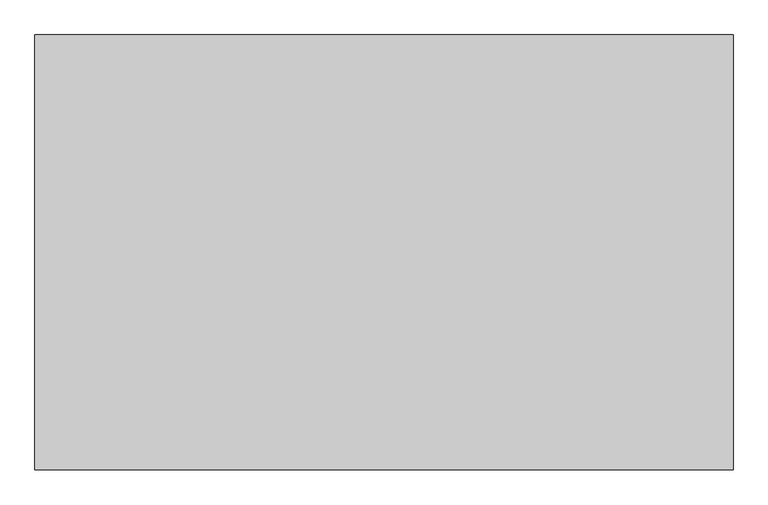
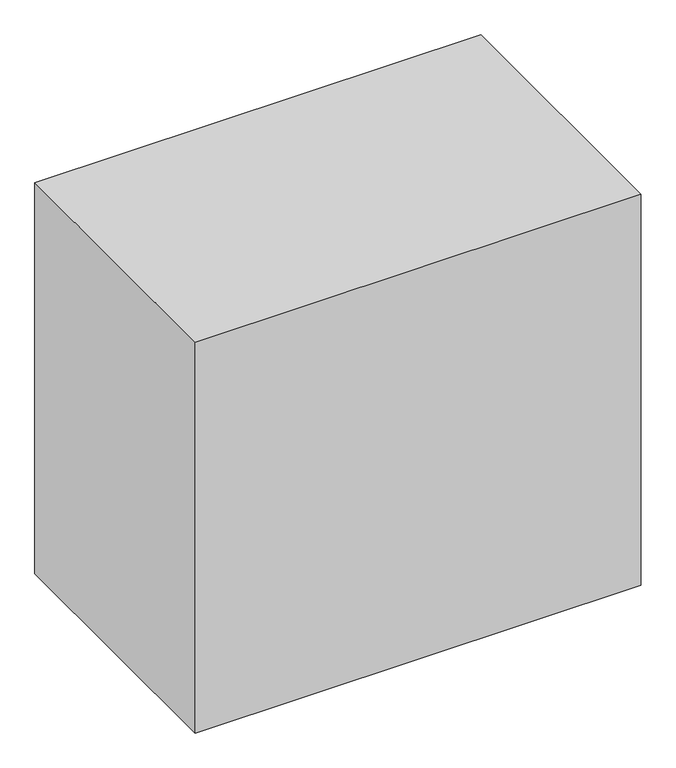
"""IFC4 building model written with IfcOpenShell, lengths in millimetres: proxy geometry."""

import ifcopenshell
import ifcopenshell.guid

model = None  # the IFC model being written
_history = None  # IfcOwnerHistory: only IFC2X3 demands one
_inside = {}  # id of a spatial element -> (the spatial element, [elements in it])
_under = {}  # id of a project, library or spatial element -> (it, [spatial elements below it])
_declared = {}  # id of a project -> (the project, [libraries it declares])
_typed = {}  # id of a type object -> (the type object, [elements of that type])
_made_of = {}  # id of a material, layer set ... -> (it, [elements and type objects made of it])


def new_model(schema):
    """Start an empty IFC model of exactly this schema.

    Asked for "IFC4X3", IfcOpenShell would pick the latest addendum, in which some entities
    have other attributes; the version numbers below select the first issue.
    IFC2X3 requires an IfcOwnerHistory on every rooted entity: one is made here for all.
    """
    global model, _history
    if schema == "IFC4X3":
        model = ifcopenshell.file(schema_version=(4, 3, 0, 0))
    else:
        model = ifcopenshell.file(schema=schema)
    _inside.clear()
    _under.clear()
    _declared.clear()
    _typed.clear()
    _made_of.clear()
    _history = None
    if model.schema == "IFC2X3":
        org = make("IfcOrganization", Name="unknown")
        user = make(
            "IfcPersonAndOrganization",
            ThePerson=make("IfcPerson", FamilyName="unknown"),
            TheOrganization=org,
        )
        app = make(
            "IfcApplication",
            ApplicationDeveloper=org,
            Version="unknown",
            ApplicationFullName="unknown",
            ApplicationIdentifier="unknown",
        )
        _history = make(
            "IfcOwnerHistory",
            OwningUser=user,
            OwningApplication=app,
            ChangeAction="ADDED",
            CreationDate=0,
        )
    return model


def make(cls, **values):
    """One entity of the class cls with the attributes given. An attribute that is None is left unset."""
    return model.create_entity(
        cls, **{name: value for name, value in values.items() if value is not None}
    )


def rooted(cls, **values):
    """An entity with a GlobalId (a new one), such as an element, a storey or a relation."""
    return make(cls, GlobalId=ifcopenshell.guid.new(), OwnerHistory=_history, **values)


def si_unit(unit_type, name, prefix=None):
    """IfcSIUnit, for example si_unit("LENGTHUNIT", "METRE", prefix="MILLI")."""
    return make("IfcSIUnit", UnitType=unit_type, Prefix=prefix, Name=name)


def assignment(units):
    """IfcUnitAssignment: the units of a project."""
    return None if units is None else make("IfcUnitAssignment", Units=units)


def point(xyz):
    """IfcCartesianPoint."""
    return None if xyz is None else make("IfcCartesianPoint", Coordinates=xyz)


def direction(xyz):
    """IfcDirection."""
    return None if xyz is None else make("IfcDirection", DirectionRatios=xyz)


def frame(location, z_axis=None, x_axis=None):
    """IfcAxis2Placement3D, a coordinate frame: its origin and axes. An axis left out is left unset."""
    return make(
        "IfcAxis2Placement3D",
        Location=point(location),
        Axis=direction(z_axis),
        RefDirection=direction(x_axis),
    )


def origin():
    """The frame at (0, 0, 0) with its axes left unset."""
    return frame((0.0, 0.0, 0.0))


def origin_with_axes():
    """The frame at (0, 0, 0) with the z axis (0, 0, 1) and the x axis (1, 0, 0) written out."""
    return frame((0.0, 0.0, 0.0), z_axis=(0.0, 0.0, 1.0), x_axis=(1.0, 0.0, 0.0))


def place(relative_to, where):
    """IfcLocalPlacement: puts the frame where relative to a parent placement (None: the world)."""
    return make(
        "IfcLocalPlacement", PlacementRelTo=relative_to, RelativePlacement=where
    )


def context(
    kind, dimensions, precision=None, world=None, true_north=None, identifier=None
):
    """IfcGeometricRepresentationContext, for example the 3D "Model" context."""
    return make(
        "IfcGeometricRepresentationContext",
        ContextIdentifier=identifier,
        ContextType=kind,
        CoordinateSpaceDimension=dimensions,
        Precision=precision,
        WorldCoordinateSystem=world,
        TrueNorth=true_north,
    )


def project(units=None, contexts=None):
    """IfcProject with its units and contexts."""
    return rooted(
        "IfcProject",
        Name="project",
        RepresentationContexts=contexts,
        UnitsInContext=assignment(units),
    )


def spatial(cls, under=None, at=None, **own):
    """A site, building, storey or space (cls), placed at a placement, below another one or the project."""
    s = rooted(cls, ObjectPlacement=at, **own)
    if under is not None:
        _under.setdefault(under.id(), (under, []))[1].append(s)
    return s


def polyline(points):
    """IfcPolyline through the points."""
    return make("IfcPolyline", Points=[point(p) for p in points])


def outline(outer, holes=None, kind="AREA"):
    """IfcArbitraryClosedProfileDef: a profile drawn as a closed curve; with holes, ...WithVoids."""
    if holes is None:
        return make("IfcArbitraryClosedProfileDef", ProfileType=kind, OuterCurve=outer)
    return make(
        "IfcArbitraryProfileDefWithVoids",
        ProfileType=kind,
        OuterCurve=outer,
        InnerCurves=holes,
    )


def extrude(swept, where, along, depth):
    """IfcExtrudedAreaSolid: the profile swept, set in the frame where, extruded along a direction by depth."""
    return make(
        "IfcExtrudedAreaSolid",
        SweptArea=swept,
        Position=where,
        ExtrudedDirection=direction(along),
        Depth=depth,
    )


def shape(context_of_items, identifier, shape_type, items):
    """IfcShapeRepresentation: the items that make up one representation, for example the "Body"."""
    return make(
        "IfcShapeRepresentation",
        ContextOfItems=context_of_items,
        RepresentationIdentifier=identifier,
        RepresentationType=shape_type,
        Items=items,
    )


def source(mapping_origin, context_of_items, identifier, shape_type, items):
    """IfcRepresentationMap: a shape defined once, which mapped items show again and again."""
    return make(
        "IfcRepresentationMap",
        MappingOrigin=mapping_origin,
        MappedRepresentation=shape(context_of_items, identifier, shape_type, items),
    )


def transform(
    local_origin,
    x_axis=None,
    y_axis=None,
    z_axis=None,
    scale=None,
    scale2=None,
    scale3=None,
    uniform=True,
):
    """IfcCartesianTransformationOperator3D, or its non-uniform kind. x_axis, y_axis, z_axis: its Axis1, 2, 3."""
    if uniform:
        return make(
            "IfcCartesianTransformationOperator3D",
            Axis1=direction(x_axis),
            Axis2=direction(y_axis),
            LocalOrigin=point(local_origin),
            Scale=scale,
            Axis3=direction(z_axis),
        )
    return make(
        "IfcCartesianTransformationOperator3DnonUniform",
        Axis1=direction(x_axis),
        Axis2=direction(y_axis),
        LocalOrigin=point(local_origin),
        Scale=scale,
        Axis3=direction(z_axis),
        Scale2=scale2,
        Scale3=scale3,
    )


def mapped(mapping_source, mapping_target):
    """IfcMappedItem: shows the shape of a source again, moved by a transform."""
    return make(
        "IfcMappedItem", MappingSource=mapping_source, MappingTarget=mapping_target
    )


def made_of(thing, what):
    """Note that an element or type object is made of a material, layer set ...; save() writes the relation."""
    if what is not None:
        _made_of.setdefault(what.id(), (what, []))[1].append(thing)
    return thing


def element(
    cls,
    number,
    at=None,
    inside=None,
    cuts=None,
    type_object=None,
    material=None,
    context=None,
    identifier="Body",
    shape_type=None,
    held_by="IfcProductDefinitionShape",
    body=None,
    shapes=None,
    **own,
):
    """One element of the class cls, such as IfcWall. Its Tag is "e" and its number.

    at: its placement. inside: the storey or other place that contains it. cuts: it is an
    opening in that element (IfcRelVoidsElement). A single representation is given by context,
    identifier, shape_type and body (its items); several are given by shapes. held_by: the class
    of the entity that holds the representations. save() writes the other relations.
    """
    e = rooted(cls, Tag="e%d" % number, ObjectPlacement=at, **own)
    if body is not None:
        shapes = [shape(context, identifier, shape_type, body)]
    if shapes is not None:
        e.Representation = make(held_by, Representations=shapes)
    if inside is not None:
        _inside.setdefault(inside.id(), (inside, []))[1].append(e)
    if cuts is not None:
        rooted(
            "IfcRelVoidsElement", RelatingBuildingElement=cuts, RelatedOpeningElement=e
        )
    if type_object is not None:
        _typed.setdefault(type_object.id(), (type_object, []))[1].append(e)
    return made_of(e, material)


def aggregate(whole, parts):
    """IfcRelAggregates: a whole, such as a stair, and the parts it consists of."""
    return rooted("IfcRelAggregates", RelatingObject=whole, RelatedObjects=parts)


def save(model, path):
    """Write the relations noted so far, then the file.

    IfcRelAggregates (storeys below a building ...), IfcRelContainedInSpatialStructure (elements
    in a storey), IfcRelDefinesByType, IfcRelAssociatesMaterial and IfcRelDeclares: one each for
    every whole, place, type object, material and project.
    """
    for whole, parts in _under.values():
        aggregate(whole, parts)
    for where, things in _inside.values():
        rooted(
            "IfcRelContainedInSpatialStructure",
            RelatedElements=things,
            RelatingStructure=where,
        )
    for kind, things in _typed.values():
        rooted("IfcRelDefinesByType", RelatedObjects=things, RelatingType=kind)
    for what, things in _made_of.values():
        rooted("IfcRelAssociatesMaterial", RelatedObjects=things, RelatingMaterial=what)
    for by, libraries in _declared.values():
        rooted("IfcRelDeclares", RelatingContext=by, RelatedDefinitions=libraries)
    model.write(path)


def generic_models_aea53893(model_context):
    return source(origin(), model_context, "Body", "SweptSolid", [
        extrude(outline(polyline([(-104646.1304765, -31580.7903364), (-104646.1304765, -29900.7903364), (-101948.3455046, -29900.7903364), (-101948.3455046, -31580.7903364), (-104646.1304765, -31580.7903364)])), origin_with_axes(), (0.0, 0.0, 1.0), 2500.0),
    ])


if __name__ == "__main__":
    model = new_model("IFC4")
    model_context = context("Model", 3, world=origin())
    ifc_project = project(units=[si_unit("LENGTHUNIT", "METRE", prefix="MILLI")], contexts=[model_context])
    site = spatial("IfcSite", under=ifc_project)
    building = spatial("IfcBuilding", under=site)
    placement = place(None, origin())
    generic_models_shape = generic_models_aea53893(model_context)
    element("IfcBuildingElementProxy", 1, Name="Generic Models", at=placement, inside=building, context=model_context, shape_type="MappedRepresentation", body=[
        mapped(generic_models_shape, transform((0.0, 0.0, 0.0), x_axis=(1.0, 0.0, 0.0), y_axis=(0.0, 1.0, 0.0), z_axis=(0.0, 0.0, 1.0))),
    ])
    save(model, "model.ifc")
